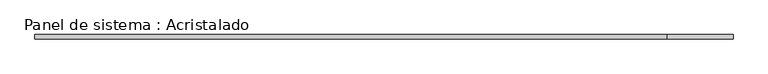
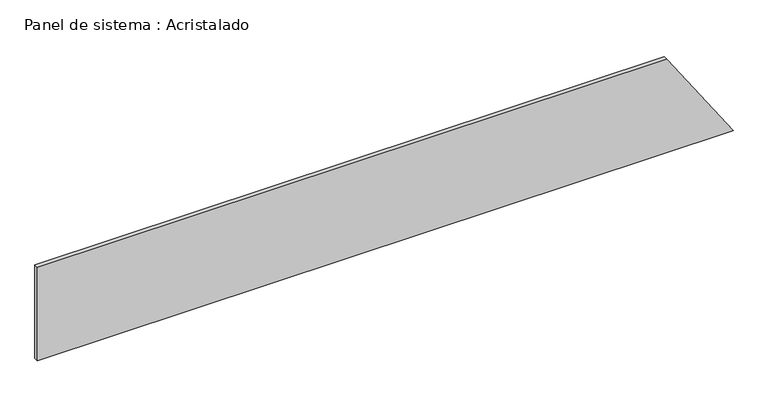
"""IFC4 building model written with IfcOpenShell, lengths in millimetres: plate geometry, Panel de sistema : Acristalado."""

from ifc_helpers import new_model, si_unit, frame, origin, place, context, project, spatial, polyline, outline, extrude, source, transform, mapped, element, save


def panel_de_sistema_acristalado_dcfe0e04(model_context):
    return source(origin(), model_context, "Body", "SweptSolid", [
        extrude(outline(polyline([(0.0, -1603.1809132), (0.0, 1603.1809132), (456.0, 1297.8237703), (456.0, -1603.1809132), (0.0, -1603.1809132)])), frame((0.0, -10.0, 0.0), z_axis=(0.0, 1.0, 0.0), x_axis=(0.0, 0.0, 1.0)), (0.0, 0.0, 1.0), 20.0),
    ])


if __name__ == "__main__":
    model = new_model("IFC4")
    model_context = context("Model", 3, world=origin())
    ifc_project = project(units=[si_unit("LENGTHUNIT", "METRE", prefix="MILLI")], contexts=[model_context])
    site = spatial("IfcSite", under=ifc_project)
    building = spatial("IfcBuilding", under=site)
    placement = place(None, origin())
    panel_de_sistema_acristalado_shape = panel_de_sistema_acristalado_dcfe0e04(model_context)
    element("IfcPlate", 1, ObjectType="Panel de sistema : Acristalado", at=placement, inside=building, context=model_context, shape_type="MappedRepresentation", body=[
        mapped(panel_de_sistema_acristalado_shape, transform((0.0, 0.0, 0.0), x_axis=(1.0, 0.0, 0.0), y_axis=(0.0, 1.0, 0.0), z_axis=(0.0, 0.0, 1.0))),
    ])
    save(model, "model.ifc")
